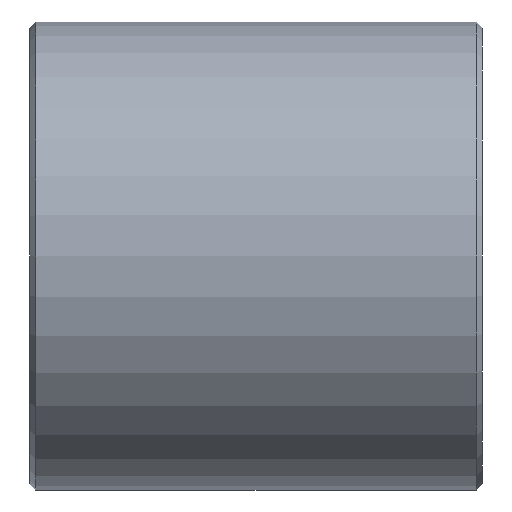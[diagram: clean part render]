
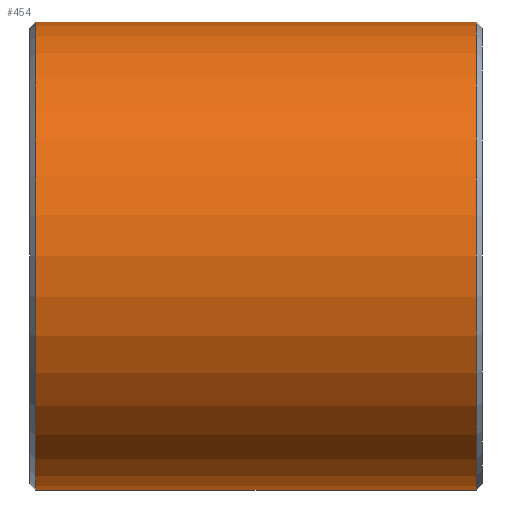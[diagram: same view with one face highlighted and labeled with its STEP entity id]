
A CAD part, left-side view. The second image highlights one B-rep face of the part: STEP entity #454.
In plain terms, the highlighted cylindrical face has radius 7.75 mm (diameter 15.5 mm), a partial arc.
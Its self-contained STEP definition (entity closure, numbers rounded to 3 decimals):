
#15 = EDGE_CURVE ( 'NONE', #243, #733, #294, .T. ) ;
#23 = DIRECTION ( 'NONE',  ( 0., -1., 0. ) ) ;
#33 = CARTESIAN_POINT ( 'NONE',  ( 0., 0.2, -7.75 ) ) ;
#60 = ORIENTED_EDGE ( 'NONE', *, *, #440, .T. ) ;
#65 = FACE_OUTER_BOUND ( 'NONE', #606, .T. ) ;
#72 = VECTOR ( 'NONE', #528, 1000. ) ;
#99 = ORIENTED_EDGE ( 'NONE', *, *, #15, .T. ) ;
#116 = LINE ( 'NONE', #584, #72 ) ;
#127 = EDGE_CURVE ( 'NONE', #437, #700, #116, .T. ) ;
#184 = DIRECTION ( 'NONE',  ( 0., 0., 1. ) ) ;
#192 = CIRCLE ( 'NONE', #273, 7.75 ) ;
#194 = DIRECTION ( 'NONE',  ( 0., 0., -1. ) ) ;
#243 = VERTEX_POINT ( 'NONE', #695 ) ;
#256 = CARTESIAN_POINT ( 'NONE',  ( 0., 0.2, 0. ) ) ;
#273 = AXIS2_PLACEMENT_3D ( 'NONE', #256, #307, #184 ) ;
#294 = LINE ( 'NONE', #368, #693 ) ;
#307 = DIRECTION ( 'NONE',  ( 0., 1., 0. ) ) ;
#332 = ORIENTED_EDGE ( 'NONE', *, *, #127, .F. ) ;
#368 = CARTESIAN_POINT ( 'NONE',  ( 0., 15., -7.75 ) ) ;
#379 = AXIS2_PLACEMENT_3D ( 'NONE', #476, #671, #424 ) ;
#424 = DIRECTION ( 'NONE',  ( 0., 0., 1. ) ) ;
#437 = VERTEX_POINT ( 'NONE', #592 ) ;
#440 = EDGE_CURVE ( 'NONE', #733, #700, #192, .T. ) ;
#454 = ADVANCED_FACE ( 'NONE', ( #65 ), #737, .T. ) ;
#475 = CARTESIAN_POINT ( 'NONE',  ( 0., 15., 0. ) ) ;
#476 = CARTESIAN_POINT ( 'NONE',  ( 0., 14.8, 0. ) ) ;
#490 = DIRECTION ( 'NONE',  ( 0., -1., 0. ) ) ;
#528 = DIRECTION ( 'NONE',  ( 0., -1., 0. ) ) ;
#558 = EDGE_CURVE ( 'NONE', #437, #243, #580, .T. ) ;
#578 = ORIENTED_EDGE ( 'NONE', *, *, #558, .T. ) ;
#580 = CIRCLE ( 'NONE', #379, 7.75 ) ;
#584 = CARTESIAN_POINT ( 'NONE',  ( 0., 15., 7.75 ) ) ;
#592 = CARTESIAN_POINT ( 'NONE',  ( 0., 14.8, 7.75 ) ) ;
#606 = EDGE_LOOP ( 'NONE', ( #332, #578, #99, #60 ) ) ;
#661 = AXIS2_PLACEMENT_3D ( 'NONE', #475, #490, #194 ) ;
#671 = DIRECTION ( 'NONE',  ( 0., -1., 0. ) ) ;
#683 = CARTESIAN_POINT ( 'NONE',  ( 0., 0.2, 7.75 ) ) ;
#693 = VECTOR ( 'NONE', #23, 1000. ) ;
#695 = CARTESIAN_POINT ( 'NONE',  ( 0., 14.8, -7.75 ) ) ;
#700 = VERTEX_POINT ( 'NONE', #683 ) ;
#733 = VERTEX_POINT ( 'NONE', #33 ) ;
#737 = CYLINDRICAL_SURFACE ( 'NONE', #661, 7.75 ) ;
